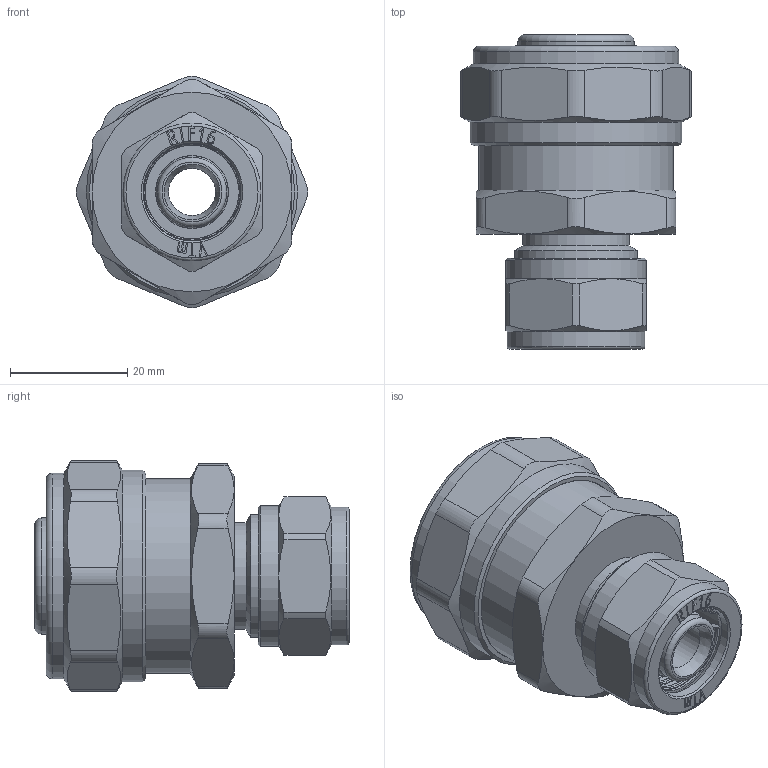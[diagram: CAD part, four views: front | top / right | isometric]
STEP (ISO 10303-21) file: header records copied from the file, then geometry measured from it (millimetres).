
FILE_DESCRIPTION(('STEP AP203'), '1');
FILE_NAME('VTm.303.N.002616', '', ('UNSPECIFIED'), ('UNSPECIFIED'), 'C3D Converter', 'C3D Toolkit', '');
FILE_SCHEMA(('CONFIG_CONTROL_DESIGN'));
Length unit declared in the file: millimetre
Products named in the file (1): ВР.302634.071.000 СБ
Bounding box: 39.39 x 53.61 x 39.39 mm (x, y, z)
Volume: 27237.3 mm3; surface area: 18108.5 mm2
Topology: 2 solids, 2 shells, 586 faces, 1576 edges, 1036 vertices
Faces by surface type: extrusion 234, plane 190, cylinder 70, torus 56, cone 36
Full cylindrical faces by diameter (mm): 8 x1, 11.8 x4, 12.4 x1, 15 x1, 16.2 x1, 16.7 x1, 17.4 x4, 18.2 x1, 18.632 x1, 19.8 x5, 20 x1, 20.955 x1, 23.5 x1, 24 x1, 26.2 x1, 26.7 x1, 30.292 x1, 33.249 x1, 35 x1, 36 x1
Entity records: 22016 total; most frequent: CARTESIAN_POINT 8790, ORIENTED_EDGE 2996, DIRECTION 1958, EDGE_CURVE 1498, VERTEX_POINT 1035, VECTOR 868, B_SPLINE_CURVE_WITH_KNOTS 865, EDGE_LOOP 705
